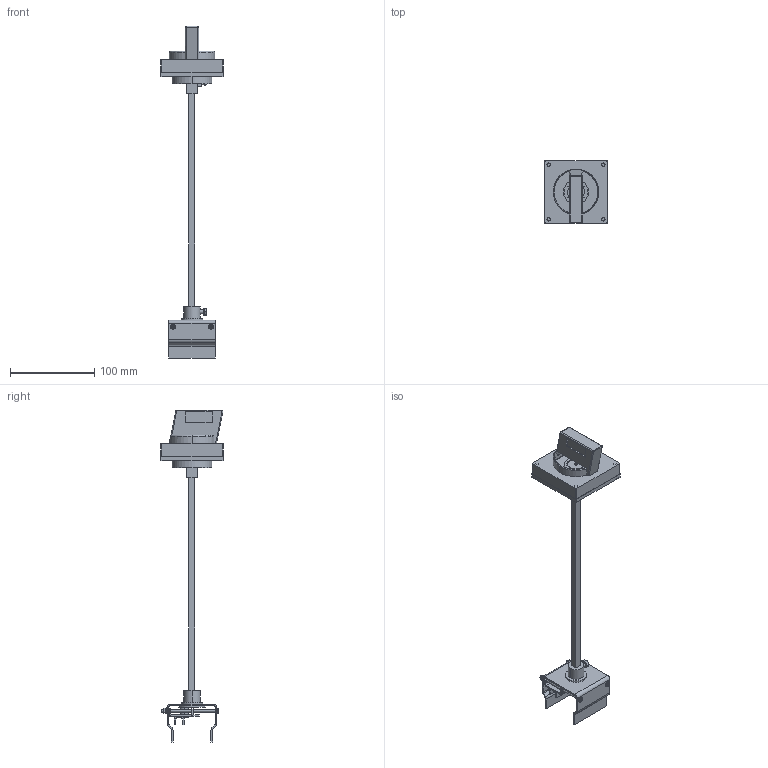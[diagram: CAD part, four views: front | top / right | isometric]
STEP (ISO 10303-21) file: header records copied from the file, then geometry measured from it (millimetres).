
FILE_DESCRIPTION (( 'STEP AP214' ), '1' );
FILE_NAME ('Ðóêîÿòêà äëÿ TGB1N â ñáîðå.STEP', '2025-12-04T07:38:54', ( '' ), ( '' ), 'SwSTEP 2.0', 'SolidWorks 2024', '' );
FILE_SCHEMA (( 'AUTOMOTIVE_DESIGN' ));
Length unit declared in the file: millimetre
Products named in the file (2): Рукоятка для TGB1N в сборе
Assembly tree (1 placements, depth 2):
  Рукоятка для TGB1N в сборе
    Рукоятка для TGB1N в сборе
Bounding box: 74 x 74 x 394 mm (x, y, z)
Volume: 201338.3 mm3; surface area: 79901.7 mm2
Topology: 16 solids, 16 shells, 700 faces, 1602 edges, 945 vertices
Faces by surface type: plane 405, cylinder 153, cone 93, torus 29, bspline 10, sphere 10
Entity records: 21070 total; most frequent: CARTESIAN_POINT 5186, DIRECTION 3365, ORIENTED_EDGE 3172, EDGE_CURVE 1586, AXIS2_PLACEMENT_3D 1250, VERTEX_POINT 943, VECTOR 865, LINE 865
